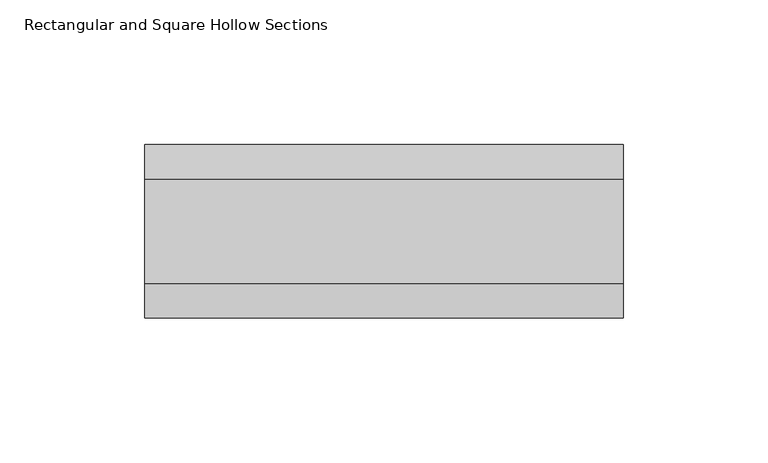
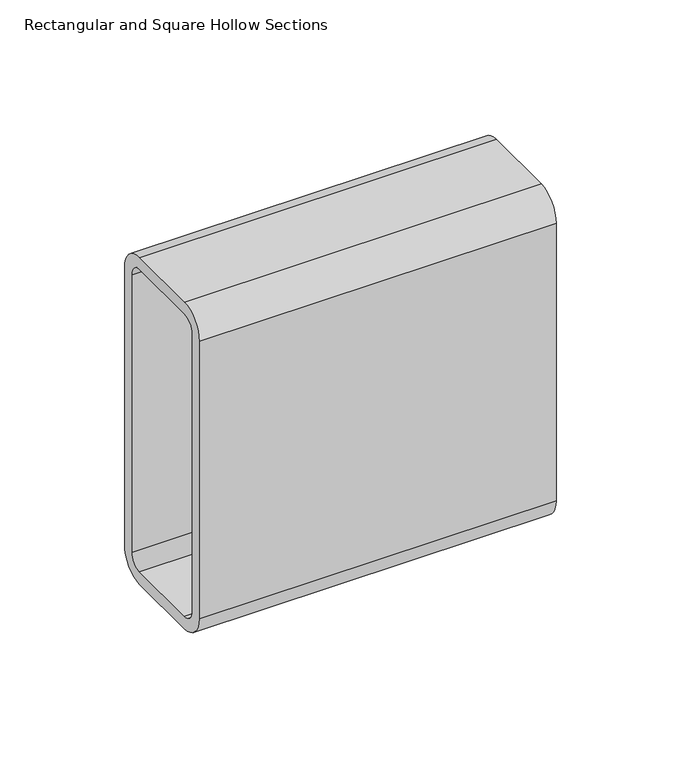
"""IFC4 building model written with IfcOpenShell, lengths in millimetres: beam geometry, Rectangular and Square Hollow Sections : TREC160x60x6."""

from ifc_helpers import new_model, si_unit, point, frame, frame_2d, origin, place, context, project, spatial, polyline, circle_curve, trimmed, segment, composite_curve, outline, extrude, source, transform, mapped, element, save


def rectangular_and_square_hollow_sections_4b37a91f(model_context):
    return source(origin(), model_context, "Body", "SweptSolid", [
        extrude(outline(composite_curve([segment(polyline([(30.0, 68.0), (30.0, -68.0)]), True, "CONTINUOUS"), segment(trimmed(circle_curve(frame_2d((18.0, -68.0)), 12.0), [point((30.0, -68.0))], [point((18.0, -80.0))], False, "CARTESIAN"), True, "CONTINUOUS"), segment(polyline([(18.0, -80.0), (-18.0, -80.0)]), True, "CONTINUOUS"), segment(trimmed(circle_curve(frame_2d((-18.0, -68.0)), 12.0), [point((-18.0, -80.0))], [point((-30.0, -68.0))], False, "CARTESIAN"), True, "CONTINUOUS"), segment(polyline([(-30.0, -68.0), (-30.0, 68.0)]), True, "CONTINUOUS"), segment(trimmed(circle_curve(frame_2d((-18.0, 68.0)), 12.0), [point((-30.0, 68.0))], [point((-18.0, 80.0))], False, "CARTESIAN"), True, "CONTINUOUS"), segment(polyline([(-18.0, 80.0), (18.0, 80.0)]), True, "CONTINUOUS"), segment(trimmed(circle_curve(frame_2d((18.0, 68.0)), 12.0), [point((18.0, 80.0))], [point((30.0, 68.0))], False, "CARTESIAN"), True, "CONTINUOUS")], self_intersect=False), holes=[composite_curve([segment(trimmed(circle_curve(frame_2d((-18.0, 68.0)), 6.0), [point((-18.0, 74.0))], [point((-24.0, 68.0))], True, "CARTESIAN"), True, "CONTINUOUS"), segment(polyline([(-24.0, 68.0), (-24.0, -68.0)]), True, "CONTINUOUS"), segment(trimmed(circle_curve(frame_2d((-18.0, -68.0)), 6.0), [point((-24.0, -68.0))], [point((-18.0, -74.0))], True, "CARTESIAN"), True, "CONTINUOUS"), segment(polyline([(-18.0, -74.0), (18.0, -74.0)]), True, "CONTINUOUS"), segment(trimmed(circle_curve(frame_2d((18.0, -68.0)), 6.0), [point((18.0, -74.0))], [point((24.0, -68.0))], True, "CARTESIAN"), True, "CONTINUOUS"), segment(polyline([(24.0, -68.0), (24.0, 68.0)]), True, "CONTINUOUS"), segment(trimmed(circle_curve(frame_2d((18.0, 68.0)), 6.0), [point((24.0, 68.0))], [point((18.0, 74.0))], True, "CARTESIAN"), True, "CONTINUOUS"), segment(polyline([(18.0, 74.0), (-18.0, 74.0)]), True, "CONTINUOUS")], self_intersect=False)]), frame((-76.0, 0.0, 0.0), z_axis=(1.0, 0.0, 0.0), x_axis=(0.0, 1.0, 0.0)), (0.0, 0.0, 1.0), 165.412488),
    ])


if __name__ == "__main__":
    model = new_model("IFC4")
    model_context = context("Model", 3, world=origin())
    ifc_project = project(units=[si_unit("LENGTHUNIT", "METRE", prefix="MILLI")], contexts=[model_context])
    site = spatial("IfcSite", under=ifc_project)
    building = spatial("IfcBuilding", under=site)
    placement = place(None, origin())
    rectangular_and_square_hollow_sections_shape = rectangular_and_square_hollow_sections_4b37a91f(model_context)
    element("IfcBeam", 1, ObjectType="Rectangular and Square Hollow Sections : TREC160x60x6", at=placement, inside=building, context=model_context, shape_type="MappedRepresentation", body=[
        mapped(rectangular_and_square_hollow_sections_shape, transform((0.0, 0.0, 0.0), x_axis=(1.0, 0.0, 0.0), y_axis=(0.0, 1.0, 0.0), z_axis=(0.0, 0.0, 1.0))),
    ])
    save(model, "model.ifc")
